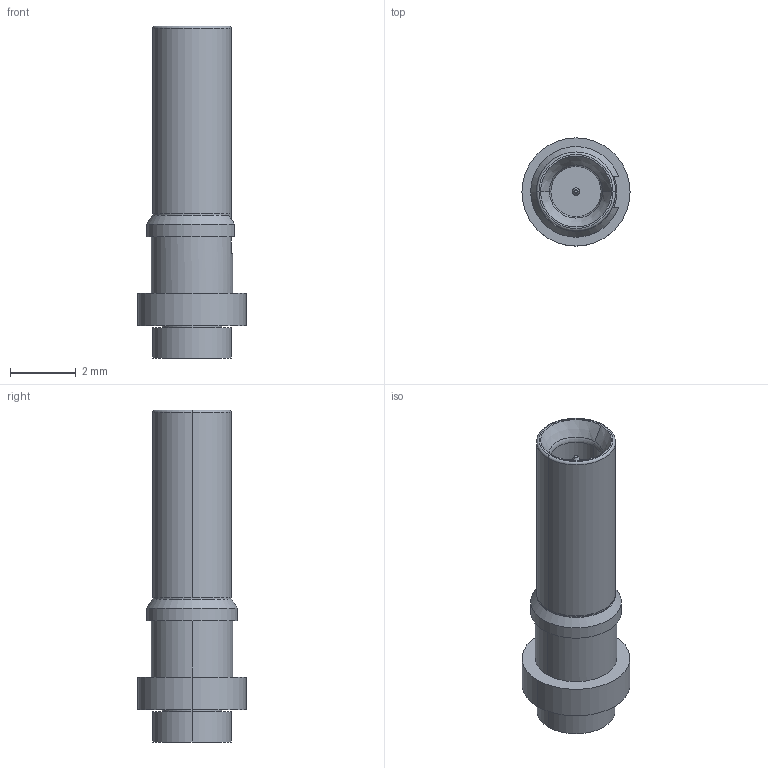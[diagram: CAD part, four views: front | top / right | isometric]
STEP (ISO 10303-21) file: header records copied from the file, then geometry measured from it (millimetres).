
FILE_DESCRIPTION (( 'STEP AP214' ), '1' );
FILE_NAME ('SF3811-60060.STEP', '2021-01-12T21:31:47', ( '' ), ( '' ), 'SwSTEP 2.0', 'SolidWorks 2018', '' );
FILE_SCHEMA (( 'AUTOMOTIVE_DESIGN' ));
Length unit declared in the file: inch
Products named in the file (1): SF3811-60060
Bounding box: 3.3 x 3.3 x 10.13 mm (x, y, z)
Volume: 45.7 mm3; surface area: 115.6 mm2
Topology: 1 solids, 1 shells, 44 faces, 95 edges, 60 vertices
Faces by surface type: cylinder 19, plane 14, cone 7, torus 4
Entity records: 1778 total; most frequent: DIRECTION 240, CARTESIAN_POINT 206, ORIENTED_EDGE 190, AXIS2_PLACEMENT_3D 102, EDGE_CURVE 95, VERTEX_POINT 60, CIRCLE 57, EDGE_LOOP 51
